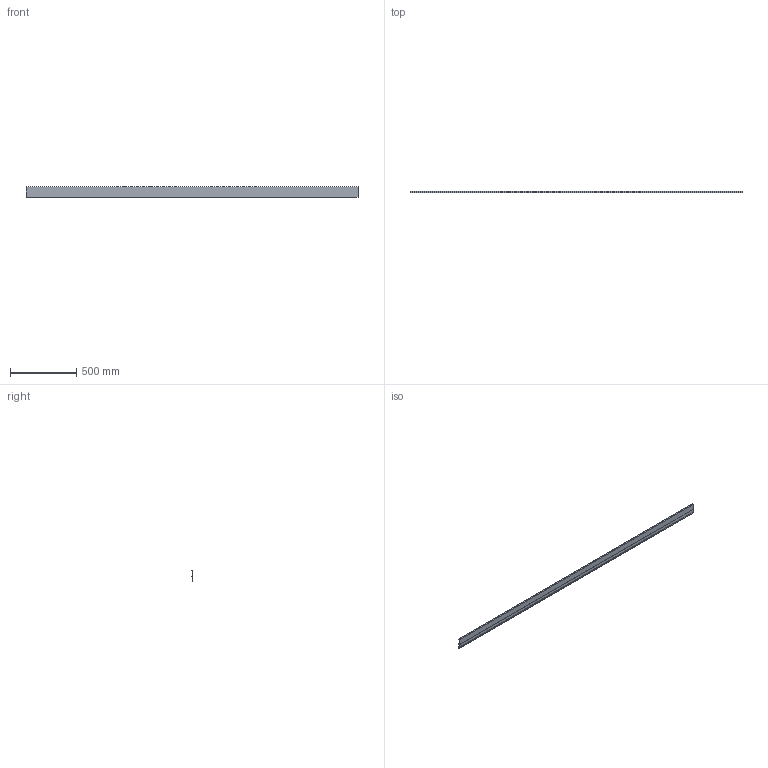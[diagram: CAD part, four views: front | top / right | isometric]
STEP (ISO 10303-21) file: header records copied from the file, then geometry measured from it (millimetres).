
FILE_DESCRIPTION(('STEP AP242'),'1');
FILE_NAME('OPO_65.083.32.stp','2026-03-17T13:41:52',(' '),(' '),'Spatial InterOp 3D',' ',' ');
FILE_SCHEMA(('AP242_MANAGED_MODEL_BASED_3D_ENGINEERING_MIM_LF {1 0 10303 442 1 1 4}'));
Length unit declared in the file: millimetre
Products named in the file (1): 1
Bounding box: 2500 x 11.5 x 79.5 mm (x, y, z)
Volume: 280000 mm3; surface area: 565224 mm2
Topology: 1 solids, 1 shells, 68 faces, 184 edges, 122 vertices
Faces by surface type: plane 48, cylinder 20
Entity records: 2692 total; most frequent: CARTESIAN_POINT 375, ORIENTED_EDGE 368, DIRECTION 362, EDGE_CURVE 184, LINE 144, VECTOR 144, VERTEX_POINT 122, AXIS2_PLACEMENT_3D 109
